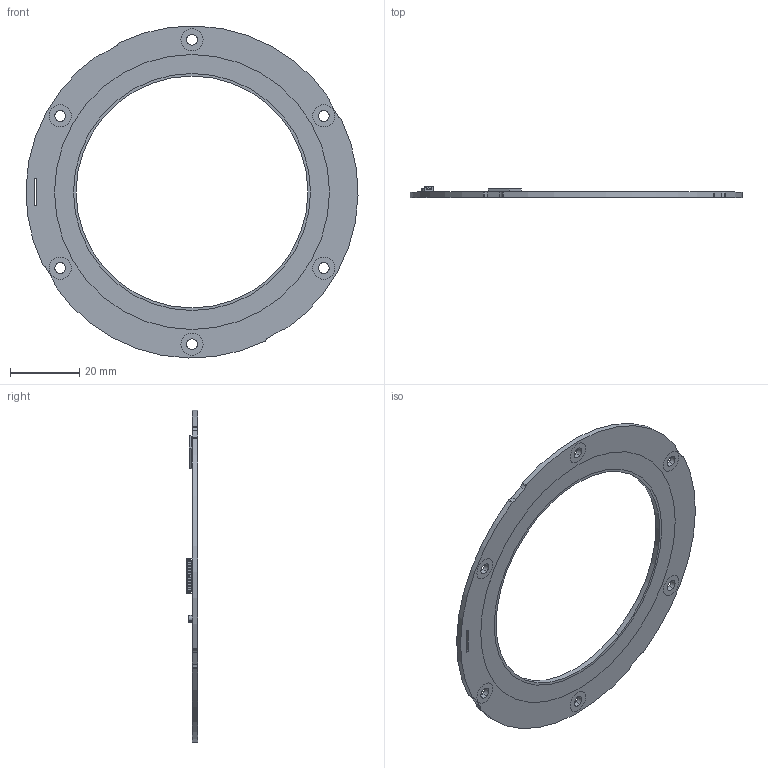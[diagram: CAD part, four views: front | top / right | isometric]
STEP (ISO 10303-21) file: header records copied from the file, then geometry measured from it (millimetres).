
FILE_DESCRIPTION (( 'STEP AP214' ), '1' );
FILE_NAME ('IRS-096_rev01.STEP', '2023-11-07T18:13:32', ( '' ), ( '' ), 'SwSTEP 2.0', 'SolidWorks 2021', '' );
FILE_SCHEMA (( 'AUTOMOTIVE_DESIGN' ));
Length unit declared in the file: millimetre
Products named in the file (1): IRS-096_rev01
Bounding box: 95.97 x 3.32 x 95.97 mm (x, y, z)
Volume: 5907.2 mm3; surface area: 8539.3 mm2
Topology: 15 solids, 15 shells, 1801 faces, 4706 edges, 2829 vertices
Faces by surface type: plane 809, cylinder 693, bspline 299
Entity records: 76934 total; most frequent: CARTESIAN_POINT 14747, ORIENTED_EDGE 9190, DIRECTION 8368, EDGE_CURVE 4595, VECTOR 2956, LINE 2956, VERTEX_POINT 2829, AXIS2_PLACEMENT_3D 2706
